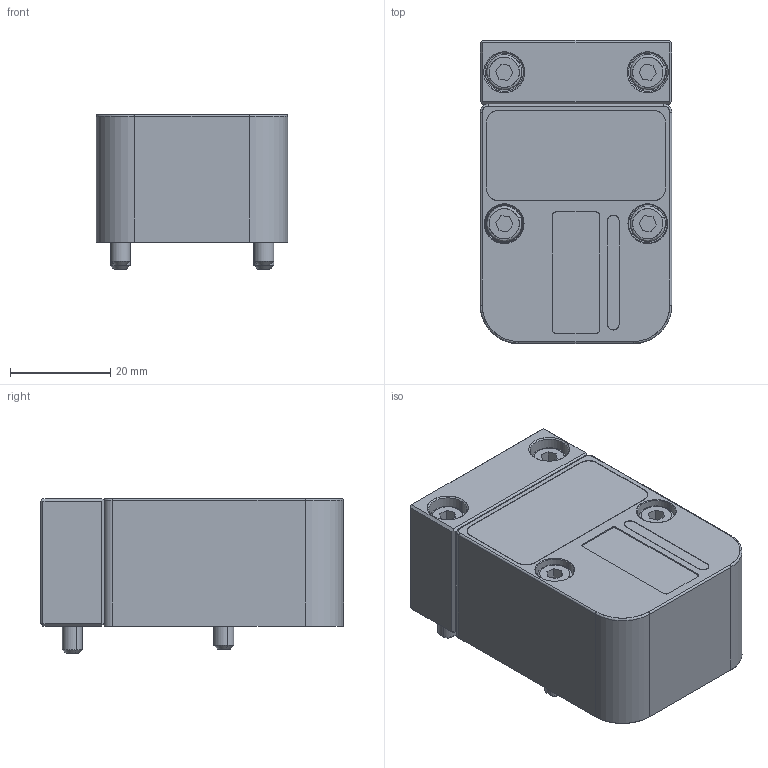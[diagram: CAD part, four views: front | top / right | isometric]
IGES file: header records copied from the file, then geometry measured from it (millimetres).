
Start section: SolidWorks IGES file using analytic representation for surfaces
Global section: file name: F:\GENERAL ACCESS\NCIR\NC-3672\SW\CVEX-200\CVEX-200.igs; native system: SolidWorks 2012; preprocessor: SolidWorks 2012; author: 01kak2013; date: 140606.154209; units: millimetre
Bounding box: 38.1 x 60.33 x 30.84 mm (x, y, z)
Surface area: 14769.6 mm2 (no closed solid volume)
Topology: 0 solids, 0 shells, 170 faces, 1972 edges, 1972 vertices
Faces by surface type: bspline 98, revolution 72
